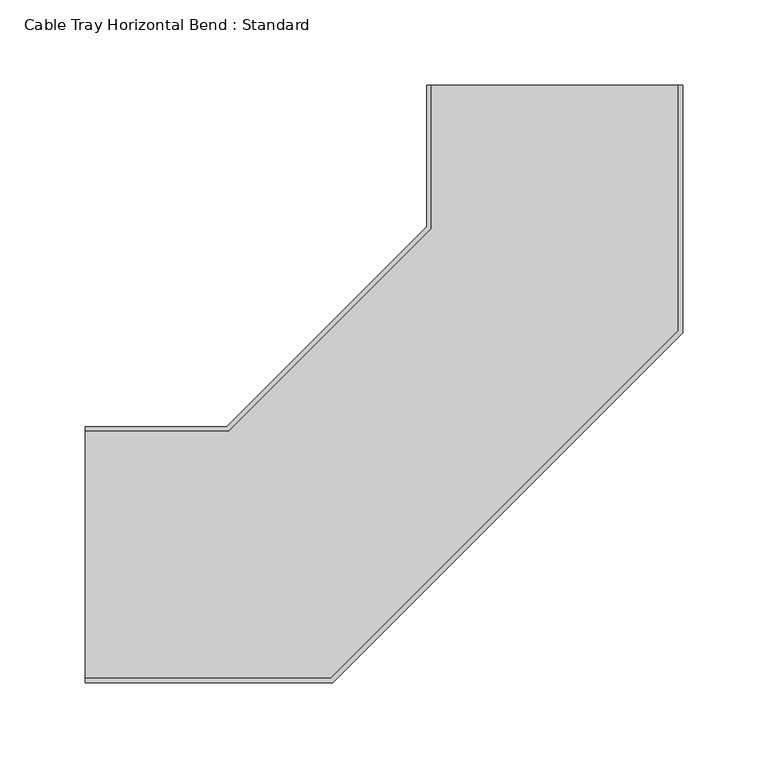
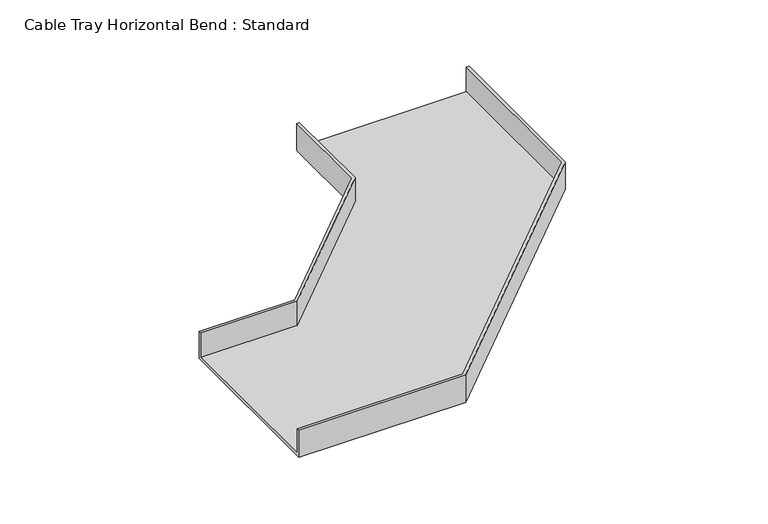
"""IFC4 building model written with IfcOpenShell, lengths in millimetres: cable carrier fitting geometry, Cable Tray Horizontal Bend : Standard."""

from ifc_helpers import new_model, si_unit, origin, place, context, project, spatial, faceted_brep, source, transform, mapped, element, save


def cable_tray_horizontal_bend_standard_cea69160(model_context):
    return source(origin(), model_context, "Body", "Brep", [
        faceted_brep([(-275.0, -75.0, -12.5), (-275.0, -75.0, 12.5), (-275.0, -72.46, 12.5), (-275.0, -72.46, -9.96), (-275.0, 72.46, -9.96), (-275.0, 72.46, 12.5), (-275.0, 75.0, 12.5), (-275.0, 75.0, -12.5), (75.0, 275.0, -12.5), (-75.0, 275.0, -12.5), (-75.0, 275.0, 12.5), (-72.46, 275.0, 12.5), (-72.46, 275.0, -9.96), (72.46, 275.0, -9.96), (72.46, 275.0, 12.5), (75.0, 275.0, 12.5), (-130.0252532, -75.0, -12.5), (-130.0252532, -75.0, 12.5), (75.0, 130.0252532, 12.5), (72.46, 131.0773556, 12.5), (-131.0773556, -72.46, 12.5), (-131.0773556, -72.46, -9.96), (72.46, 131.0773556, -9.96), (-72.46, 191.1051851, -9.96), (-191.1051851, 72.46, -9.96), (-191.1051851, 72.46, 12.5), (-72.46, 191.1051851, 12.5), (-75.0, 192.1572875, 12.5), (-192.1572875, 75.0, 12.5), (-192.1572875, 75.0, -12.5), (-75.0, 192.1572875, -12.5), (75.0, 130.0252532, -12.5)], [[[0, 1, 2, 3, 4, 5, 6, 7]], [[8, 9, 10, 11, 12, 13, 14, 15]], [[1, 0, 16, 17]], [[2, 1, 17, 18, 15, 14, 19, 20]], [[3, 2, 20, 21]], [[4, 3, 21, 22, 13, 12, 23, 24]], [[5, 4, 24, 25]], [[6, 5, 25, 26, 11, 10, 27, 28]], [[7, 6, 28, 29]], [[0, 7, 29, 30, 9, 8, 31, 16]], [[17, 16, 31, 18]], [[21, 20, 19, 22]], [[25, 24, 23, 26]], [[29, 28, 27, 30]], [[18, 31, 8, 15]], [[22, 19, 14, 13]], [[26, 23, 12, 11]], [[30, 27, 10, 9]]]),
    ])


if __name__ == "__main__":
    model = new_model("IFC4")
    model_context = context("Model", 3, world=origin())
    ifc_project = project(units=[si_unit("LENGTHUNIT", "METRE", prefix="MILLI")], contexts=[model_context])
    site = spatial("IfcSite", under=ifc_project)
    building = spatial("IfcBuilding", under=site)
    placement = place(None, origin())
    cable_tray_horizontal_bend_standard_shape = cable_tray_horizontal_bend_standard_cea69160(model_context)
    element("IfcCableCarrierFitting", 1, ObjectType="Cable Tray Horizontal Bend : Standard", at=placement, inside=building, context=model_context, shape_type="MappedRepresentation", body=[
        mapped(cable_tray_horizontal_bend_standard_shape, transform((0.0, 0.0, 0.0), x_axis=(1.0, 0.0, 0.0), y_axis=(0.0, 1.0, 0.0), z_axis=(0.0, 0.0, 1.0))),
    ])
    save(model, "model.ifc")
